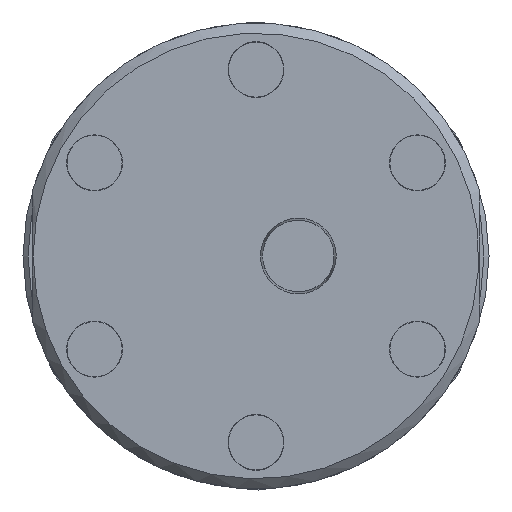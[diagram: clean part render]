
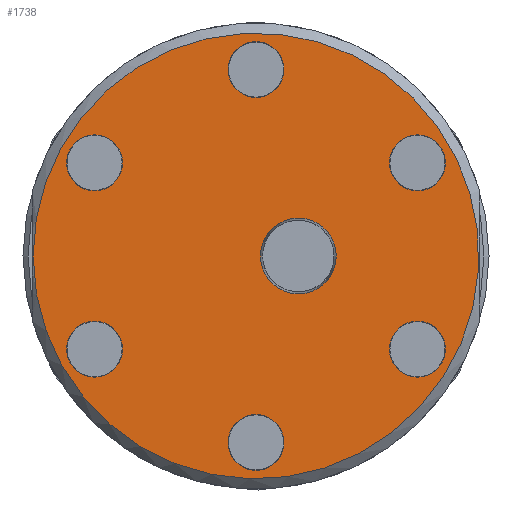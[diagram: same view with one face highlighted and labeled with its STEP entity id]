
A CAD part, front view. The second image highlights one B-rep face of the part: STEP entity #1738.
In plain terms, the highlighted planar face has unit normal (0, -1, 0) as drawn and (0, 1, 0) by its records, which use the part's own axes.
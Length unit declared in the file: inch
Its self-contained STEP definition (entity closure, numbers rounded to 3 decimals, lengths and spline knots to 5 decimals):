
#129=PLANE('',#1986);
#343=FACE_BOUND('',#667,.T.);
#344=FACE_BOUND('',#668,.T.);
#345=FACE_BOUND('',#669,.T.);
#346=FACE_BOUND('',#670,.T.);
#347=FACE_BOUND('',#671,.T.);
#348=FACE_BOUND('',#672,.T.);
#349=FACE_BOUND('',#673,.T.);
#459=FACE_OUTER_BOUND('',#666,.T.);
#666=EDGE_LOOP('',(#1534));
#667=EDGE_LOOP('',(#1535));
#668=EDGE_LOOP('',(#1536));
#669=EDGE_LOOP('',(#1537));
#670=EDGE_LOOP('',(#1538));
#671=EDGE_LOOP('',(#1539));
#672=EDGE_LOOP('',(#1540));
#673=EDGE_LOOP('',(#1541));
#787=CIRCLE('',#1920,0.22359);
#806=CIRCLE('',#1953,1.315);
#808=CIRCLE('',#1958,0.165);
#810=CIRCLE('',#1961,0.165);
#812=CIRCLE('',#1964,0.165);
#814=CIRCLE('',#1967,0.165);
#816=CIRCLE('',#1970,0.165);
#818=CIRCLE('',#1973,0.165);
#929=VERTEX_POINT('',#3007);
#950=VERTEX_POINT('',#3082);
#952=VERTEX_POINT('',#3229);
#954=VERTEX_POINT('',#3234);
#956=VERTEX_POINT('',#3239);
#958=VERTEX_POINT('',#3244);
#960=VERTEX_POINT('',#3249);
#962=VERTEX_POINT('',#3254);
#1110=EDGE_CURVE('',#929,#929,#787,.T.);
#1142=EDGE_CURVE('',#950,#950,#806,.T.);
#1148=EDGE_CURVE('',#952,#952,#808,.T.);
#1150=EDGE_CURVE('',#954,#954,#810,.T.);
#1152=EDGE_CURVE('',#956,#956,#812,.T.);
#1154=EDGE_CURVE('',#958,#958,#814,.T.);
#1156=EDGE_CURVE('',#960,#960,#816,.T.);
#1158=EDGE_CURVE('',#962,#962,#818,.T.);
#1534=ORIENTED_EDGE('',*,*,#1142,.F.);
#1535=ORIENTED_EDGE('',*,*,#1110,.T.);
#1536=ORIENTED_EDGE('',*,*,#1148,.T.);
#1537=ORIENTED_EDGE('',*,*,#1150,.T.);
#1538=ORIENTED_EDGE('',*,*,#1152,.T.);
#1539=ORIENTED_EDGE('',*,*,#1154,.T.);
#1540=ORIENTED_EDGE('',*,*,#1156,.T.);
#1541=ORIENTED_EDGE('',*,*,#1158,.T.);
#1738=ADVANCED_FACE('',(#459,#343,#344,#345,#346,#347,#348,#349),#129,.T.);
#1920=AXIS2_PLACEMENT_3D('',#3008,#2368,#2369);
#1953=AXIS2_PLACEMENT_3D('',#3083,#2443,#2444);
#1958=AXIS2_PLACEMENT_3D('',#3230,#2455,#2456);
#1961=AXIS2_PLACEMENT_3D('',#3235,#2461,#2462);
#1964=AXIS2_PLACEMENT_3D('',#3240,#2467,#2468);
#1967=AXIS2_PLACEMENT_3D('',#3245,#2473,#2474);
#1970=AXIS2_PLACEMENT_3D('',#3250,#2479,#2480);
#1973=AXIS2_PLACEMENT_3D('',#3255,#2485,#2486);
#1986=AXIS2_PLACEMENT_3D('',#3274,#2511,#2512);
#2368=DIRECTION('center_axis',(0.,-1.,0.));
#2369=DIRECTION('ref_axis',(1.,0.,0.));
#2443=DIRECTION('center_axis',(0.,-1.,0.));
#2444=DIRECTION('ref_axis',(1.,0.,0.));
#2455=DIRECTION('center_axis',(0.,-1.,0.));
#2456=DIRECTION('ref_axis',(1.,0.,0.));
#2461=DIRECTION('center_axis',(0.,-1.,0.));
#2462=DIRECTION('ref_axis',(1.,0.,0.));
#2467=DIRECTION('center_axis',(0.,-1.,0.));
#2468=DIRECTION('ref_axis',(1.,0.,0.));
#2473=DIRECTION('center_axis',(0.,-1.,0.));
#2474=DIRECTION('ref_axis',(1.,0.,0.));
#2479=DIRECTION('center_axis',(0.,-1.,0.));
#2480=DIRECTION('ref_axis',(1.,0.,0.));
#2485=DIRECTION('center_axis',(0.,-1.,0.));
#2486=DIRECTION('ref_axis',(1.,0.,0.));
#2511=DIRECTION('center_axis',(0.,1.,0.));
#2512=DIRECTION('ref_axis',(0.,0.,1.));
#3007=CARTESIAN_POINT('',(0.47359,0.95,0.));
#3008=CARTESIAN_POINT('Origin',(0.25,0.95,0.));
#3082=CARTESIAN_POINT('',(-1.315,0.95,0.));
#3083=CARTESIAN_POINT('Origin',(0.,0.95,0.));
#3229=CARTESIAN_POINT('',(-0.165,0.95,-1.1));
#3230=CARTESIAN_POINT('Origin',(0.,0.95,-1.1));
#3234=CARTESIAN_POINT('',(0.78763,0.95,0.55));
#3235=CARTESIAN_POINT('Origin',(0.95263,0.95,0.55));
#3239=CARTESIAN_POINT('',(-1.11763,0.95,0.55));
#3240=CARTESIAN_POINT('Origin',(-0.95263,0.95,0.55));
#3244=CARTESIAN_POINT('',(-0.165,0.95,1.1));
#3245=CARTESIAN_POINT('Origin',(0.,0.95,1.1));
#3249=CARTESIAN_POINT('',(0.78763,0.95,-0.55));
#3250=CARTESIAN_POINT('Origin',(0.95263,0.95,-0.55));
#3254=CARTESIAN_POINT('',(-1.11763,0.95,-0.55));
#3255=CARTESIAN_POINT('Origin',(-0.95263,0.95,-0.55));
#3274=CARTESIAN_POINT('Origin',(0.,0.95,0.));
